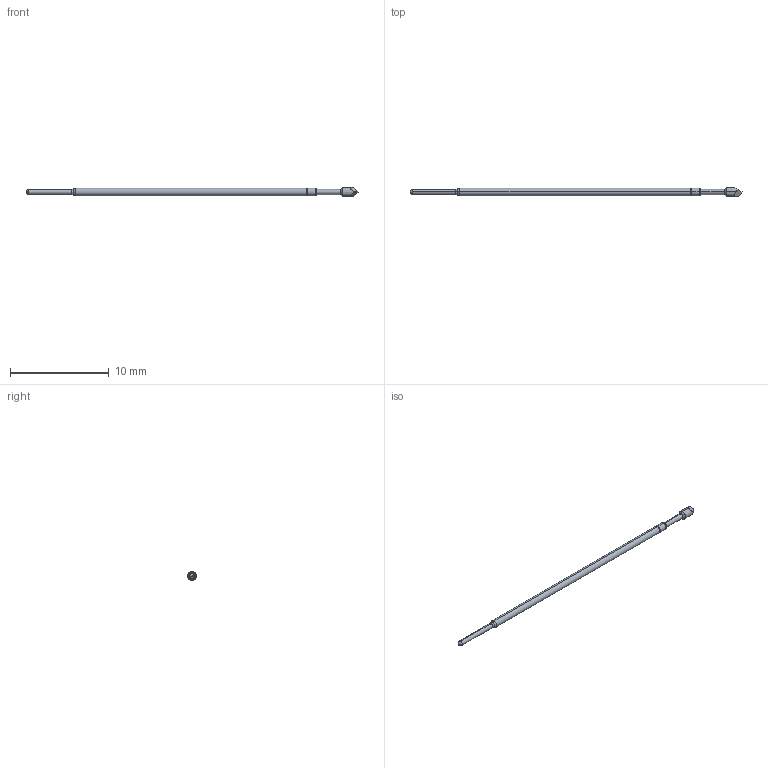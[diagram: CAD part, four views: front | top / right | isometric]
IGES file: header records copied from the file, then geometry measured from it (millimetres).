
Start section: SolidWorks IGES file using analytic representation for surfaces
Global section: file name: C:\Documents and Settings\mrumschlag\Desktop\changes\new\test\T38 RECD.IGS; native system: SolidWorks 2011; preprocessor: SolidWorks 2011; author: mrumschlag; date: 110630.142729; units: inch
Bounding box: 33.69 x 0.89 x 0.89 mm (x, y, z)
Surface area: 75.5 mm2 (no closed solid volume)
Topology: 0 solids, 0 shells, 30 faces, 184 edges, 182 vertices
Faces by surface type: revolution 18, bspline 12
